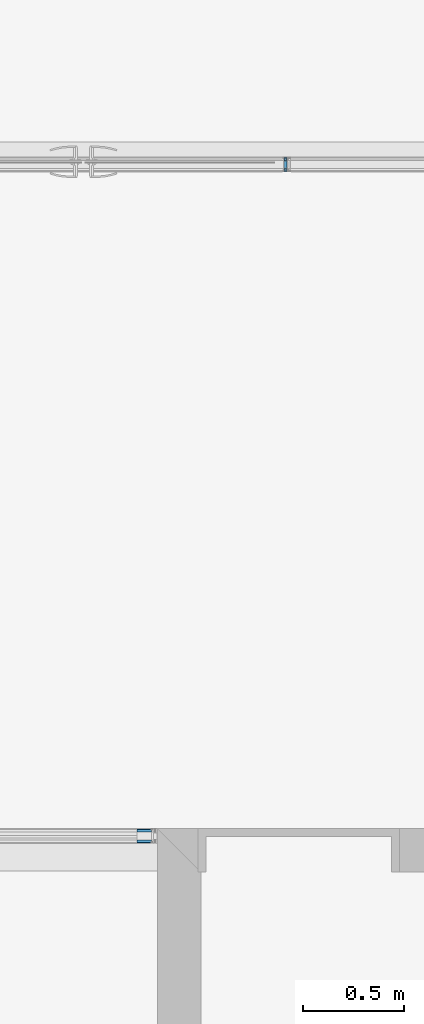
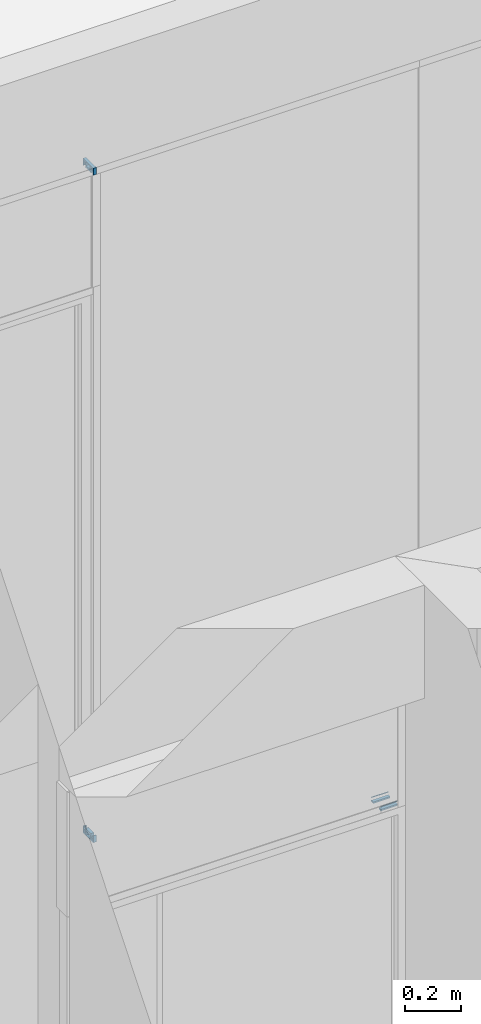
# One storey, part 75 of 89: 5 building element parts, 5 elements without a shape of their own.
"""IFC2X3 building model written with IfcOpenShell, lengths in millimetres."""

from ifc_helpers import new_model, entity, si_unit, converted_unit, derived_unit, money_unit, direction, frame, origin_with_axes, place, context, subcontext, project, spatial, faceted_brep, material, type_object, element, aggregate, save


model = new_model("IFC2X3")

# Units and contexts
model_context = context("Model", 3, precision=0.01, world=origin_with_axes(), true_north=direction((0.0, 1.0)))
body_context = subcontext(model_context, "Body", "Model", "MODEL_VIEW")
ifc_project = project(units=[si_unit("LENGTHUNIT", "METRE", prefix="MILLI"), si_unit("AREAUNIT", "SQUARE_METRE"), si_unit("VOLUMEUNIT", "CUBIC_METRE"), converted_unit("PLANEANGLEUNIT", "DEGREE", entity("IfcPlaneAngleMeasure", 0.0174532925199), si_unit("PLANEANGLEUNIT", "RADIAN"), dimensions=[0, 0, 0, 0, 0, 0, 0]), si_unit("SOLIDANGLEUNIT", "STERADIAN"), money_unit("EUR"), converted_unit("TIMEUNIT", "Year", entity("IfcTimeMeasure", 31556926.0), si_unit("TIMEUNIT", "SECOND"), dimensions=[0, 0, 1, 0, 0, 0, 0]), si_unit("MASSUNIT", "GRAM", prefix="KILO"), si_unit("THERMODYNAMICTEMPERATUREUNIT", "DEGREE_CELSIUS"), si_unit("LUMINOUSINTENSITYUNIT", "LUMEN"), si_unit("ENERGYUNIT", "JOULE", prefix="MEGA"), derived_unit("THERMALCONDUCTANCEUNIT", [(si_unit("POWERUNIT", "WATT"), 1), (si_unit("LENGTHUNIT", "METRE"), -1), (si_unit("THERMODYNAMICTEMPERATUREUNIT", "KELVIN"), -1)]), derived_unit("SPECIFICHEATCAPACITYUNIT", [(si_unit("ENERGYUNIT", "JOULE"), 1), (si_unit("MASSUNIT", "GRAM", prefix="KILO"), -1), (si_unit("THERMODYNAMICTEMPERATUREUNIT", "KELVIN"), -1)]), derived_unit("MASSDENSITYUNIT", [(si_unit("MASSUNIT", "GRAM", prefix="KILO"), 1), (si_unit("VOLUMEUNIT", "CUBIC_METRE"), -1)])], contexts=[model_context])

# Site, building, storey
site_placement = place(None, origin_with_axes())
site = spatial("IfcSite", under=ifc_project, at=site_placement, Name="Puškini 31, Narva", CompositionType="ELEMENT")
building_placement = place(site_placement, origin_with_axes())
building = spatial("IfcBuilding", under=site, at=building_placement, Name="Narva Riigigümnaasium", CompositionType="ELEMENT")
storey_placement = place(building_placement, frame((0.0, 0.0, -3300.0), z_axis=(0.0, 0.0, 1.0), x_axis=(1.0, 0.0, 0.0)))
storey = spatial("IfcBuildingStorey", under=building, at=storey_placement, Name="1.korrus -3.3", CompositionType="ELEMENT", Elevation=-3300.0)

# Curtain wall, members, building element parts
curtain_wall_type = type_object("IfcCurtainWallType", Name="Curtain Wall Type", PredefinedType="NOTDEFINED")
curtain_wall_1_placement = place(storey_placement, frame((40014.000008, 243997.000057, -9.155864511e-06), z_axis=(0.0, 0.0, 1.0), x_axis=(1.0, 0.0, 0.0)))
curtain_wall_1 = element("IfcCurtainWall", 1, at=curtain_wall_1_placement, inside=storey, type_object=curtain_wall_type, Name="G-SKLF-09")
member_type_1 = type_object("IfcMemberType", Name="30 x -83", PredefinedType="MULLION")
member_1_placement = place(curtain_wall_1_placement, frame((-586.000007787, 0.0, 2950.00000716), z_axis=(1.0, 0.0, 0.0), x_axis=(0.0, 0.0, 1.0)))
member_1 = element("IfcMember", 2, at=member_1_placement, type_object=member_type_1, Name="G-SKLF-52-raam", ObjectType="MULLION")
ifc_material_1 = material(Name="Klaasvill")
building_element_part_1_placement = place(member_1_placement, origin_with_axes())
building_element_part_1 = element("IfcBuildingElementPart", 3, at=building_element_part_1_placement, material=ifc_material_1, Name="Klaasvill", context=body_context, shape_type="Brep", body=[
    faceted_brep([(-7.49999990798, -20.000000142, 0.0), (-13.8499999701, -20.000000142, 0.0), (-13.8499999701, -20.000000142, 13.0000136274), (-7.49999990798, -20.000000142, 13.0000136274), (-7.49999990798, -34.0161444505, 0.0), (-13.8499999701, -34.0161444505, 0.0), (-13.8499999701, -34.0161444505, 13.0000136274), (-7.49999990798, -34.0161444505, 13.0000136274)], [[[0, 1, 2, 3]], [[0, 4, 5, 1]], [[1, 5, 6, 2]], [[3, 2, 6, 7]], [[4, 0, 3, 7]], [[5, 4, 7, 6]]]),
    faceted_brep([(-24.987414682, -34.0161444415, 0.0), (-25.004489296, -32.0307503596, 0.0), (-25.004489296, -32.0307503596, 13.0000136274), (-24.987414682, -34.0161444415, 13.0000136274), (-28.5126239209, -34.0161444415, 0.0), (-28.7655837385, -33.0385325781, 0.0), (-28.4955493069, -32.0307503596, 0.0), (-27.75780152, -31.2930025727, 0.0), (-26.7500193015, -31.0229681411, 0.0), (-25.742237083, -31.2930025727, 0.0), (-25.742237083, -31.2930025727, 13.0000136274), (-26.7500193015, -31.0229681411, 13.0000136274), (-27.75780152, -31.2930025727, 13.0000136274), (-28.4955493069, -32.0307503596, 13.0000136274), (-28.7655837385, -33.0385325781, 13.0000136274), (-28.5126239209, -34.0161444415, 13.0000136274)], [[[0, 1, 2, 3]], [[0, 4, 5, 6, 7, 8, 9, 1]], [[1, 9, 10, 2]], [[3, 2, 10, 11, 12, 13, 14, 15]], [[4, 0, 3, 15]], [[5, 4, 15, 14]], [[6, 5, 14, 13]], [[7, 6, 13, 12]], [[8, 7, 12, 11]], [[9, 8, 11, 10]]]),
    faceted_brep([(-7.49999990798, 19.9999997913, 0.0), (-7.49999990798, 34.0161445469, 0.0), (-7.49999990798, 34.0161445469, 13.0000136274), (-7.49999990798, 19.9999997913, 13.0000136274), (-13.8499999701, 19.9999997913, 0.0), (-13.8499999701, 34.0161445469, 0.0), (-13.8499999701, 34.0161445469, 13.0000136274), (-13.8499999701, 19.9999997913, 13.0000136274)], [[[0, 1, 2, 3]], [[0, 4, 5, 1]], [[1, 5, 6, 2]], [[3, 2, 6, 7]], [[4, 0, 3, 7]], [[5, 4, 7, 6]]]),
    faceted_brep([(-25.004489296, 32.0307503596, 0.0), (-24.987414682, 34.0161444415, 0.0), (-24.987414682, 34.0161444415, 13.0000136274), (-25.004489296, 32.0307503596, 13.0000136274), (-25.742237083, 31.2930025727, 0.0), (-26.7500193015, 31.0229681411, 0.0), (-27.75780152, 31.2930025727, 0.0), (-28.4955493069, 32.0307503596, 0.0), (-28.7655837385, 33.0385325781, 0.0), (-28.5126239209, 34.0161444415, 0.0), (-28.5126239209, 34.0161444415, 13.0000136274), (-28.7655837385, 33.0385325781, 13.0000136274), (-28.4955493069, 32.0307503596, 13.0000136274), (-27.75780152, 31.2930025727, 13.0000136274), (-26.7500193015, 31.0229681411, 13.0000136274), (-25.742237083, 31.2930025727, 13.0000136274)], [[[0, 1, 2, 3]], [[0, 4, 5, 6, 7, 8, 9, 1]], [[1, 9, 10, 2]], [[3, 2, 10, 11, 12, 13, 14, 15]], [[4, 0, 3, 15]], [[5, 4, 15, 14]], [[6, 5, 14, 13]], [[7, 6, 13, 12]], [[8, 7, 12, 11]], [[9, 8, 11, 10]]]),
])
ifc_material_2 = material(Name="Teras RAL7012")
building_element_part_2_placement = place(member_1_placement, origin_with_axes())
building_element_part_2 = element("IfcBuildingElementPart", 4, at=building_element_part_2_placement, material=ifc_material_2, Name="Teras RAL7012", context=body_context, shape_type="Brep", body=[
    faceted_brep([(0.0, 17.0000000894, 0.0), (-29.5999996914, 17.0000000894, 0.0), (-29.5999996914, 17.0000000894, 13.0000136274), (0.0, 17.0000000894, 13.0000136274), (0.0, -17.0000000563, 0.0), (-29.5999996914, -17.0000000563, 0.0), (-1.9999999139, -15.0000001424, 0.0), (-1.9999999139, 15.0000001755, 0.0), (-18.7999996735, 15.0000001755, 0.0), (-18.7999996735, -15.0000001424, 0.0), (-29.5999996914, -17.0000000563, 13.0000136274), (0.0, -17.0000000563, 13.0000136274), (-1.9999999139, -15.0000001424, 13.0000136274), (-18.7999996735, -15.0000001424, 13.0000136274), (-18.7999996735, 15.0000001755, 13.0000136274), (-1.9999999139, 15.0000001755, 13.0000136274)], [[[0, 1, 2, 3]], [[0, 4, 5, 1], [6, 7, 8, 9]], [[1, 5, 10, 2]], [[3, 2, 10, 11], [12, 13, 14, 15]], [[4, 0, 3, 11]], [[5, 4, 11, 10]], [[7, 6, 12, 15]], [[8, 7, 15, 14]], [[9, 8, 14, 13]], [[6, 9, 13, 12]]]),
    faceted_brep([(0.0, -17.0, 0.0), (-29.5999996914, -17.0000000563, 0.0), (-29.5999996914, -17.0000000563, 13.0000136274), (0.0, -17.0, 13.0000136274), (0.0, -37.0, 0.0), (-30.0000193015, -37.0, 0.0), (-30.0000193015, -34.0161444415, 0.0), (-28.5126239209, -34.0161444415, 0.0), (-24.987414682, -34.0161444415, 0.0), (-13.8499999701, -34.0161444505, 0.0), (-7.49999999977, -34.0161444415, 0.0), (-7.49999999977, -20.0, 0.0), (-13.8499999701, -20.000000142, 0.0), (-30.0000193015, -20.0, 0.0), (-30.0000193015, -17.0, 0.0), (-30.0000193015, -17.0, 13.0000136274), (-30.0000193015, -20.0, 13.0000136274), (-13.8499999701, -20.000000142, 13.0000136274), (-7.49999999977, -20.0, 13.0000136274), (-7.49999999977, -34.0161444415, 13.0000136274), (-13.8499999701, -34.0161444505, 13.0000136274), (-24.987414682, -34.0161444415, 13.0000136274), (-28.5126239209, -34.0161444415, 13.0000136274), (-30.0000193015, -34.0161444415, 13.0000136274), (-30.0000193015, -37.0, 13.0000136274), (0.0, -37.0, 13.0000136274)], [[[0, 1, 2, 3]], [[0, 4, 5, 6, 7, 8, 9, 10, 11, 12, 13, 14, 1]], [[1, 14, 15, 2]], [[3, 2, 15, 16, 17, 18, 19, 20, 21, 22, 23, 24, 25]], [[4, 0, 3, 25]], [[5, 4, 25, 24]], [[6, 5, 24, 23]], [[7, 6, 23, 22]], [[8, 7, 22, 21]], [[9, 8, 21, 20]], [[10, 9, 20, 19]], [[11, 10, 19, 18]], [[12, 11, 18, 17]], [[13, 12, 17, 16]], [[14, 13, 16, 15]]]),
    faceted_brep([(0.0, 17.0, 0.0), (0.0, 37.0, 0.0), (0.0, 37.0, 13.0000136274), (0.0, 17.0, 13.0000136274), (-29.5999996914, 17.0000000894, 0.0), (-30.0000193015, 17.0, 0.0), (-30.0000193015, 20.0, 0.0), (-13.8499999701, 19.9999997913, 0.0), (-7.49999999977, 20.0, 0.0), (-7.49999999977, 34.0161444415, 0.0), (-13.8499999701, 34.0161445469, 0.0), (-24.987414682, 34.0161444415, 0.0), (-28.5126239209, 34.0161444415, 0.0), (-30.0000193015, 34.0161444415, 0.0), (-30.0000193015, 37.0, 0.0), (-30.0000193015, 37.0, 13.0000136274), (-30.0000193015, 34.0161444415, 13.0000136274), (-28.5126239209, 34.0161444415, 13.0000136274), (-24.987414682, 34.0161444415, 13.0000136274), (-13.8499999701, 34.0161445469, 13.0000136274), (-7.49999999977, 34.0161444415, 13.0000136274), (-7.49999999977, 20.0, 13.0000136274), (-13.8499999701, 19.9999997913, 13.0000136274), (-30.0000193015, 20.0, 13.0000136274), (-30.0000193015, 17.0, 13.0000136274), (-29.5999996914, 17.0000000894, 13.0000136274)], [[[0, 1, 2, 3]], [[0, 4, 5, 6, 7, 8, 9, 10, 11, 12, 13, 14, 1]], [[1, 14, 15, 2]], [[3, 2, 15, 16, 17, 18, 19, 20, 21, 22, 23, 24, 25]], [[4, 0, 3, 25]], [[5, 4, 25, 24]], [[6, 5, 24, 23]], [[7, 6, 23, 22]], [[8, 7, 22, 21]], [[9, 8, 21, 20]], [[10, 9, 20, 19]], [[11, 10, 19, 18]], [[12, 11, 18, 17]], [[13, 12, 17, 16]], [[14, 13, 16, 15]]]),
])
aggregate(member_1, [building_element_part_1, building_element_part_2])
member_2_placement = place(curtain_wall_1_placement, frame((-586.000007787, 0.0, 0.0), z_axis=(1.0, 0.0, 0.0), x_axis=(0.0, 0.0, 1.0)))
member_2 = element("IfcMember", 5, at=member_2_placement, type_object=member_type_1, Name="G-SKLF-39-raam", ObjectType="MULLION")
aggregate(curtain_wall_1, [member_1, member_2])
building_element_part_3_placement = place(member_2_placement, origin_with_axes())
building_element_part_3 = element("IfcBuildingElementPart", 6, at=building_element_part_3_placement, material=ifc_material_1, Name="Klaasvill", context=body_context, shape_type="Brep", body=[
    faceted_brep([(7.49999990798, -20.000000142, 0.0), (7.49999990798, -20.000000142, 13.0000136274), (13.8499999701, -20.000000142, 13.0000136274), (13.8499999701, -20.000000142, 0.0), (7.49999990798, -34.0161444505, 0.0), (7.49999990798, -34.0161444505, 13.0000136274), (13.8499999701, -34.0161444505, 13.0000136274), (13.8499999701, -34.0161444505, 0.0)], [[[0, 1, 2, 3]], [[4, 5, 1, 0]], [[1, 5, 6, 2]], [[3, 2, 6, 7]], [[0, 3, 7, 4]], [[7, 6, 5, 4]]]),
    faceted_brep([(24.987414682, -34.0161444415, 0.0), (24.987414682, -34.0161444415, 13.0000136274), (25.004489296, -32.0307503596, 13.0000136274), (25.004489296, -32.0307503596, 0.0), (28.5126239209, -34.0161444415, 0.0), (28.5126239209, -34.0161444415, 13.0000136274), (28.7655837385, -33.0385325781, 13.0000136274), (28.4955493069, -32.0307503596, 13.0000136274), (27.75780152, -31.2930025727, 13.0000136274), (26.7500193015, -31.0229681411, 13.0000136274), (25.742237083, -31.2930025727, 13.0000136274), (25.742237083, -31.2930025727, 0.0), (26.7500193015, -31.0229681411, 0.0), (27.75780152, -31.2930025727, 0.0), (28.4955493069, -32.0307503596, 0.0), (28.7655837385, -33.0385325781, 0.0)], [[[0, 1, 2, 3]], [[4, 5, 1, 0]], [[1, 5, 6, 7, 8, 9, 10, 2]], [[3, 2, 10, 11]], [[0, 3, 11, 12, 13, 14, 15, 4]], [[15, 6, 5, 4]], [[14, 7, 6, 15]], [[13, 8, 7, 14]], [[12, 9, 8, 13]], [[11, 10, 9, 12]]]),
    faceted_brep([(7.49999990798, 19.9999997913, 0.0), (7.49999990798, 19.9999997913, 13.0000136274), (7.49999990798, 34.0161445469, 13.0000136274), (7.49999990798, 34.0161445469, 0.0), (13.8499999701, 19.9999997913, 0.0), (13.8499999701, 19.9999997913, 13.0000136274), (13.8499999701, 34.0161445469, 13.0000136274), (13.8499999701, 34.0161445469, 0.0)], [[[0, 1, 2, 3]], [[4, 5, 1, 0]], [[1, 5, 6, 2]], [[3, 2, 6, 7]], [[0, 3, 7, 4]], [[7, 6, 5, 4]]]),
    faceted_brep([(25.004489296, 32.0307503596, 0.0), (25.004489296, 32.0307503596, 13.0000136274), (24.987414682, 34.0161444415, 13.0000136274), (24.987414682, 34.0161444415, 0.0), (25.742237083, 31.2930025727, 0.0), (25.742237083, 31.2930025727, 13.0000136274), (26.7500193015, 31.0229681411, 13.0000136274), (27.75780152, 31.2930025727, 13.0000136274), (28.4955493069, 32.0307503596, 13.0000136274), (28.7655837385, 33.0385325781, 13.0000136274), (28.5126239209, 34.0161444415, 13.0000136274), (28.5126239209, 34.0161444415, 0.0), (28.7655837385, 33.0385325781, 0.0), (28.4955493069, 32.0307503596, 0.0), (27.75780152, 31.2930025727, 0.0), (26.7500193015, 31.0229681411, 0.0)], [[[0, 1, 2, 3]], [[4, 5, 1, 0]], [[1, 5, 6, 7, 8, 9, 10, 2]], [[3, 2, 10, 11]], [[0, 3, 11, 12, 13, 14, 15, 4]], [[15, 6, 5, 4]], [[14, 7, 6, 15]], [[13, 8, 7, 14]], [[12, 9, 8, 13]], [[11, 10, 9, 12]]]),
])
building_element_part_4_placement = place(member_2_placement, origin_with_axes())
building_element_part_4 = element("IfcBuildingElementPart", 7, at=building_element_part_4_placement, material=ifc_material_2, Name="Teras RAL7012", context=body_context, shape_type="Brep", body=[
    faceted_brep([(0.0, 17.0000000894, 0.0), (0.0, 17.0000000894, 13.0000136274), (29.5999996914, 17.0000000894, 13.0000136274), (29.5999996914, 17.0000000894, 0.0), (0.0, -17.0000000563, 0.0), (0.0, -17.0000000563, 13.0000136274), (29.5999996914, -17.0000000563, 13.0000136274), (1.9999999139, -15.0000001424, 13.0000136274), (1.9999999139, 15.0000001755, 13.0000136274), (18.7999996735, 15.0000001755, 13.0000136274), (18.7999996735, -15.0000001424, 13.0000136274), (29.5999996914, -17.0000000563, 0.0), (1.9999999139, -15.0000001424, 0.0), (18.7999996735, -15.0000001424, 0.0), (18.7999996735, 15.0000001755, 0.0), (1.9999999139, 15.0000001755, 0.0)], [[[0, 1, 2, 3]], [[4, 5, 1, 0]], [[1, 5, 6, 2], [7, 8, 9, 10]], [[3, 2, 6, 11]], [[0, 3, 11, 4], [12, 13, 14, 15]], [[11, 6, 5, 4]], [[15, 8, 7, 12]], [[14, 9, 8, 15]], [[13, 10, 9, 14]], [[12, 7, 10, 13]]]),
    faceted_brep([(0.0, -17.0, 0.0), (0.0, -17.0, 13.0000136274), (29.5999996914, -17.0000000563, 13.0000136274), (29.5999996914, -17.0000000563, 0.0), (0.0, -37.0, 0.0), (0.0, -37.0, 13.0000136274), (30.0000193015, -37.0, 13.0000136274), (30.0000193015, -34.0161444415, 13.0000136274), (28.5126239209, -34.0161444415, 13.0000136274), (24.987414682, -34.0161444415, 13.0000136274), (13.8499999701, -34.0161444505, 13.0000136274), (7.49999999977, -34.0161444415, 13.0000136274), (7.49999999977, -20.0, 13.0000136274), (13.8499999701, -20.000000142, 13.0000136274), (30.0000193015, -20.0, 13.0000136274), (30.0000193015, -17.0, 13.0000136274), (30.0000193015, -17.0, 0.0), (30.0000193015, -20.0, 0.0), (13.8499999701, -20.000000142, 0.0), (7.49999999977, -20.0, 0.0), (7.49999999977, -34.0161444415, 0.0), (13.8499999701, -34.0161444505, 0.0), (24.987414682, -34.0161444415, 0.0), (28.5126239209, -34.0161444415, 0.0), (30.0000193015, -34.0161444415, 0.0), (30.0000193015, -37.0, 0.0)], [[[0, 1, 2, 3]], [[4, 5, 1, 0]], [[1, 5, 6, 7, 8, 9, 10, 11, 12, 13, 14, 15, 2]], [[3, 2, 15, 16]], [[0, 3, 16, 17, 18, 19, 20, 21, 22, 23, 24, 25, 4]], [[25, 6, 5, 4]], [[24, 7, 6, 25]], [[23, 8, 7, 24]], [[22, 9, 8, 23]], [[21, 10, 9, 22]], [[20, 11, 10, 21]], [[19, 12, 11, 20]], [[18, 13, 12, 19]], [[17, 14, 13, 18]], [[16, 15, 14, 17]]]),
    faceted_brep([(0.0, 17.0, 0.0), (0.0, 17.0, 13.0000136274), (0.0, 37.0, 13.0000136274), (0.0, 37.0, 0.0), (29.5999996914, 17.0000000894, 0.0), (29.5999996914, 17.0000000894, 13.0000136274), (30.0000193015, 17.0, 13.0000136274), (30.0000193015, 20.0, 13.0000136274), (13.8499999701, 19.9999997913, 13.0000136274), (7.49999999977, 20.0, 13.0000136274), (7.49999999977, 34.0161444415, 13.0000136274), (13.8499999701, 34.0161445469, 13.0000136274), (24.987414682, 34.0161444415, 13.0000136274), (28.5126239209, 34.0161444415, 13.0000136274), (30.0000193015, 34.0161444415, 13.0000136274), (30.0000193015, 37.0, 13.0000136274), (30.0000193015, 37.0, 0.0), (30.0000193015, 34.0161444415, 0.0), (28.5126239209, 34.0161444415, 0.0), (24.987414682, 34.0161444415, 0.0), (13.8499999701, 34.0161445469, 0.0), (7.49999999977, 34.0161444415, 0.0), (7.49999999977, 20.0, 0.0), (13.8499999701, 19.9999997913, 0.0), (30.0000193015, 20.0, 0.0), (30.0000193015, 17.0, 0.0)], [[[0, 1, 2, 3]], [[4, 5, 1, 0]], [[1, 5, 6, 7, 8, 9, 10, 11, 12, 13, 14, 15, 2]], [[3, 2, 15, 16]], [[0, 3, 16, 17, 18, 19, 20, 21, 22, 23, 24, 25, 4]], [[25, 6, 5, 4]], [[24, 7, 6, 25]], [[23, 8, 7, 24]], [[22, 9, 8, 23]], [[21, 10, 9, 22]], [[20, 11, 10, 21]], [[19, 12, 11, 20]], [[18, 13, 12, 19]], [[17, 14, 13, 18]], [[16, 15, 14, 17]]]),
])
aggregate(member_2, [building_element_part_3, building_element_part_4])

# Curtain wall, member, building element part
curtain_wall_2_placement = place(storey_placement, frame((38300.0000003, 240678.000001, -3.3467437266e-05), z_axis=(0.0, 0.0, 1.0), x_axis=(1.0, 0.0, 0.0)))
curtain_wall_2 = element("IfcCurtainWall", 8, at=curtain_wall_2_placement, inside=storey, type_object=curtain_wall_type, Name="G-SKLF-56")
member_type_2 = type_object("IfcMemberType", Name="Siseklaasfassaad-Servaprofiil-Doubleline30 30 x 42", PredefinedType="MULLION")
member_3_placement = place(curtain_wall_2_placement, frame((400.0, 0.0, 2400.00003347), z_axis=(1.0, 0.0, 0.0), x_axis=(0.0, 0.0, 1.0)))
member_3 = element("IfcMember", 9, at=member_3_placement, type_object=member_type_2, Name="Frame-Siseklaasf-126", ObjectType="MULLION")
aggregate(curtain_wall_2, [member_3])
building_element_part_5_placement = place(member_3_placement, origin_with_axes())
building_element_part_5 = element("IfcBuildingElementPart", 10, at=building_element_part_5_placement, material=ifc_material_1, Name="Klaasvill", context=body_context, shape_type="Brep", body=[
    faceted_brep([(7.49999990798, -15.000000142, 0.0), (7.49999990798, -15.000000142, 69.9999806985), (13.8499999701, -15.000000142, 69.9999806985), (13.8499999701, -15.000000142, 0.0), (7.49999990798, -29.0161444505, 0.0), (7.49999990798, -29.0161444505, 69.9999806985), (13.8499999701, -29.0161444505, 69.9999806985), (13.8499999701, -29.0161444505, 0.0)], [[[0, 1, 2, 3]], [[4, 5, 1, 0]], [[1, 5, 6, 2]], [[3, 2, 6, 7]], [[0, 3, 7, 4]], [[7, 6, 5, 4]]]),
    faceted_brep([(24.987414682, -29.0161444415, 0.0), (24.987414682, -29.0161444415, 69.9999806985), (25.004489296, -27.0307503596, 69.9999806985), (25.004489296, -27.0307503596, 0.0), (28.5126239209, -29.0161444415, 0.0), (28.5126239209, -29.0161444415, 69.9999806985), (28.7655837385, -28.0385325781, 69.9999806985), (28.4955493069, -27.0307503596, 69.9999806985), (27.75780152, -26.2930025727, 69.9999806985), (26.7500193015, -26.0229681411, 69.9999806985), (25.742237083, -26.2930025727, 69.9999806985), (25.742237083, -26.2930025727, 0.0), (26.7500193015, -26.0229681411, 0.0), (27.75780152, -26.2930025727, 0.0), (28.4955493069, -27.0307503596, 0.0), (28.7655837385, -28.0385325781, 0.0)], [[[0, 1, 2, 3]], [[4, 5, 1, 0]], [[1, 5, 6, 7, 8, 9, 10, 2]], [[3, 2, 10, 11]], [[0, 3, 11, 12, 13, 14, 15, 4]], [[15, 6, 5, 4]], [[14, 7, 6, 15]], [[13, 8, 7, 14]], [[12, 9, 8, 13]], [[11, 10, 9, 12]]]),
    faceted_brep([(7.49999990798, 24.9999997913, 0.0), (7.49999990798, 24.9999997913, 69.9999806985), (7.49999990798, 39.0161445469, 69.9999806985), (7.49999990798, 39.0161445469, 0.0), (13.8499999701, 24.9999997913, 0.0), (13.8499999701, 24.9999997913, 69.9999806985), (13.8499999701, 39.0161445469, 69.9999806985), (13.8499999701, 39.0161445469, 0.0)], [[[0, 1, 2, 3]], [[4, 5, 1, 0]], [[1, 5, 6, 2]], [[3, 2, 6, 7]], [[0, 3, 7, 4]], [[7, 6, 5, 4]]]),
    faceted_brep([(25.004489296, 37.0307503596, 0.0), (25.004489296, 37.0307503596, 69.9999806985), (24.987414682, 39.0161444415, 69.9999806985), (24.987414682, 39.0161444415, 0.0), (25.742237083, 36.2930025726, 0.0), (25.742237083, 36.2930025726, 69.9999806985), (26.7500193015, 36.0229681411, 69.9999806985), (27.75780152, 36.2930025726, 69.9999806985), (28.4955493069, 37.0307503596, 69.9999806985), (28.7655837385, 38.0385325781, 69.9999806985), (28.5126239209, 39.0161444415, 69.9999806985), (28.5126239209, 39.0161444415, 0.0), (28.7655837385, 38.0385325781, 0.0), (28.4955493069, 37.0307503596, 0.0), (27.75780152, 36.2930025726, 0.0), (26.7500193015, 36.0229681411, 0.0)], [[[0, 1, 2, 3]], [[4, 5, 1, 0]], [[1, 5, 6, 7, 8, 9, 10, 2]], [[3, 2, 10, 11]], [[0, 3, 11, 12, 13, 14, 15, 4]], [[15, 6, 5, 4]], [[14, 7, 6, 15]], [[13, 8, 7, 14]], [[12, 9, 8, 13]], [[11, 10, 9, 12]]]),
])
aggregate(member_3, [building_element_part_5])

save(model, "model.ifc")
